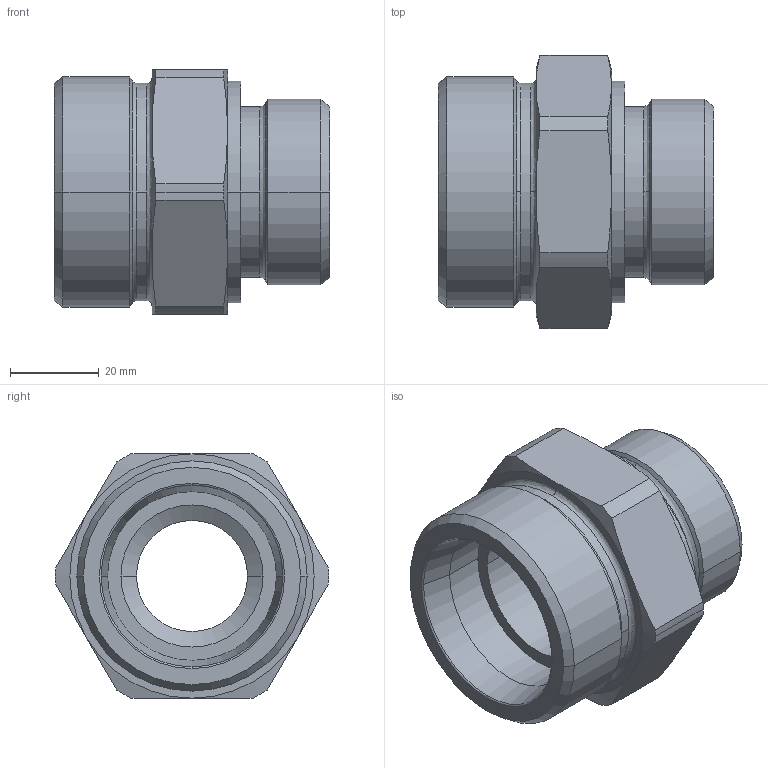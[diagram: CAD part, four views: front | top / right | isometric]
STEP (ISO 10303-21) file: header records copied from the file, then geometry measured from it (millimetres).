
FILE_DESCRIPTION((''),'2;1');
FILE_NAME('100547.stp','2007-10-30T14:23:11',(''),(''),'AutoCAD STEP 2000i','AutoCAD 2000i',', , ');
FILE_SCHEMA(('CONFIG_CONTROL_DESIGN'));
Length unit declared in the file: millimetre
Products named in the file (2): 100547.0; CHIAVE SMUSSATA#0
Assembly tree (1 placements, depth 2):
  100547.0
    CHIAVE SMUSSATA#0
Bounding box: 62 x 61.5 x 55 mm (x, y, z)
Volume: 73952 mm3; surface area: 20005.9 mm2
Topology: 1 solids, 1 shells, 79 faces, 193 edges, 121 vertices
Faces by surface type: cylinder 26, cone 26, plane 13, bspline 12, torus 2
Entity records: 2935 total; most frequent: CARTESIAN_POINT 971, DIRECTION 430, ORIENTED_EDGE 386, EDGE_CURVE 193, AXIS2_PLACEMENT_3D 192, CIRCLE 123, VERTEX_POINT 121, EDGE_LOOP 86
